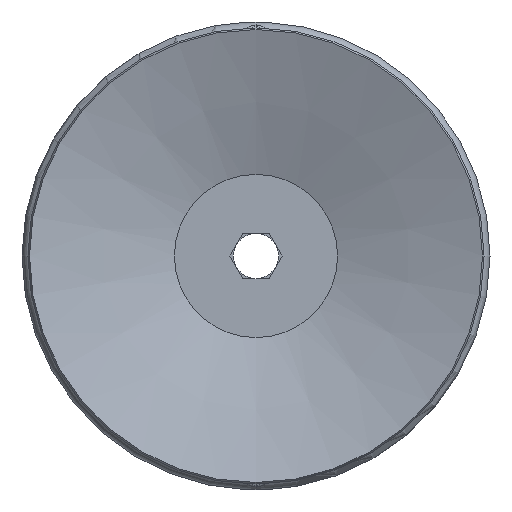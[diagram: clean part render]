
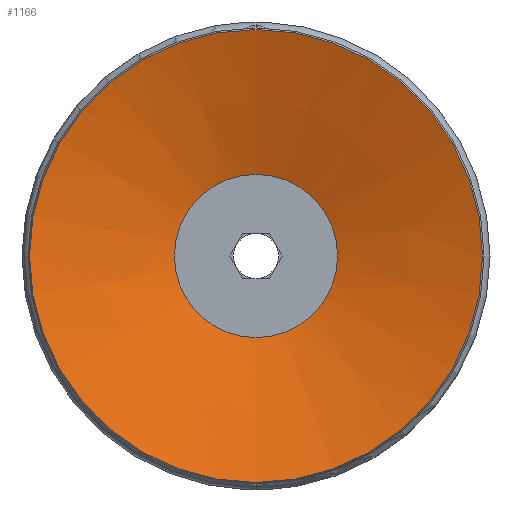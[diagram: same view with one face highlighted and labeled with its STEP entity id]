
A CAD part, front view. The second image highlights one B-rep face of the part: STEP entity #1166.
In plain terms, the highlighted conical face has half-angle 71.075 degrees and reference radius 15 mm.
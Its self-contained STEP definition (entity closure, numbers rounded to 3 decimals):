
#1166=ADVANCED_FACE('',(#2890,#2891),#2892,.F.);
#2890=FACE_BOUND('',#5235,.T.);
#2891=FACE_OUTER_BOUND('',#5236,.T.);
#2892=CONICAL_SURFACE('',#5237,15.0,1.24);
#5235=EDGE_LOOP('',(#8674));
#5236=EDGE_LOOP('',(#8675));
#5237=AXIS2_PLACEMENT_3D('',#8676,#8677,#8678);
#8674=ORIENTED_EDGE('',*,*,#15368,.T.);
#8675=ORIENTED_EDGE('',*,*,#15369,.T.);
#8676=CARTESIAN_POINT('',(0.,0.,0.0));
#8677=DIRECTION('',(0.0,0.,-1.0));
#8678=DIRECTION('',(0.0,1.0,0.));
#15368=EDGE_CURVE('',#18979,#18979,#18980,.T.);
#15369=EDGE_CURVE('',#18981,#18981,#18982,.T.);
#18979=VERTEX_POINT('',#25164);
#18980=CIRCLE('',#25165,5.4);
#18981=VERTEX_POINT('',#25166);
#18982=CIRCLE('',#25167,15.0);
#25164=CARTESIAN_POINT('',(-5.4,0.,3.291));
#25165=AXIS2_PLACEMENT_3D('',#30521,#30522,#30523);
#25166=CARTESIAN_POINT('',(0.,15.0,0.));
#25167=AXIS2_PLACEMENT_3D('',#30524,#30525,#30526);
#30521=CARTESIAN_POINT('',(0.,0.,3.291));
#30522=DIRECTION('',(0.,0.0,1.0));
#30523=DIRECTION('',(-1.0,0.0,0.));
#30524=CARTESIAN_POINT('',(0.,0.,0.0));
#30525=DIRECTION('',(0.0,0.,-1.0));
#30526=DIRECTION('',(0.0,1.0,0.));
